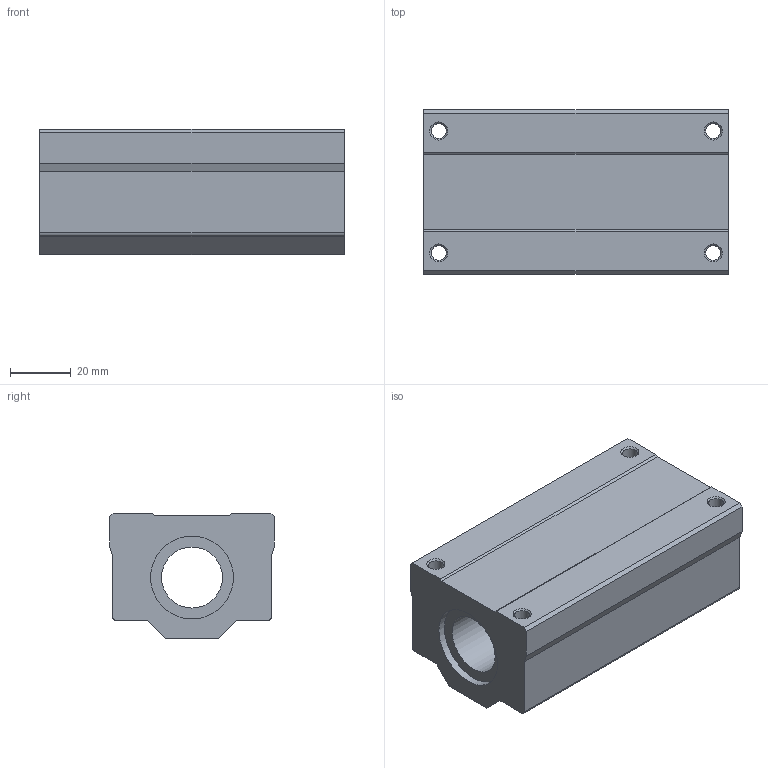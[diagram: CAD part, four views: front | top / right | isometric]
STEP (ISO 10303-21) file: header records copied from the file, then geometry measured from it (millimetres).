
FILE_DESCRIPTION( ( 'Unknown' ), '1' );
FILE_NAME( 'D:/累诀/己绕皋墨飘肺葱胶/11-04-06_档搁累己/01_府聪绢何教/SC W/SC 20W.stp', 'Unknown', ( 'Unknown' ), ( 'Unknown' ), 'PSStep 11.0', 'Unknown', ' ' );
FILE_SCHEMA( ( 'AUTOMOTIVE_DESIGN { 1 0 10303 214 1 1 1 1 }' ) );
Length unit declared in the file: millimetre
Products named in the file (1): 1
Bounding box: 100 x 54 x 41 mm (x, y, z)
Volume: 161529.5 mm3; surface area: 29647.9 mm2
Topology: 1 solids, 1 shells, 39 faces, 108 edges, 73 vertices
Faces by surface type: plane 22, cylinder 13, cone 4
Full cylindrical faces by diameter (mm): 4.917 x8, 20 x1, 27.2 x2
Entity records: 1426 total; most frequent: DIRECTION 188, CARTESIAN_POINT 184, ORIENTED_EDGE 164, EDGE_CURVE 82, AXIS2_PLACEMENT_3D 66, EDGE_LOOP 66, VERTEX_POINT 62, LINE 56
